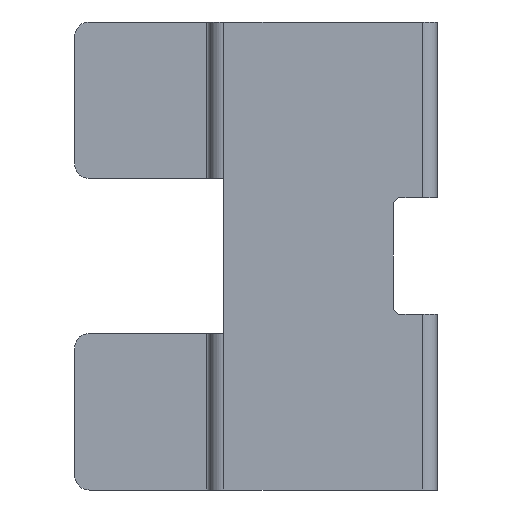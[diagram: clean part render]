
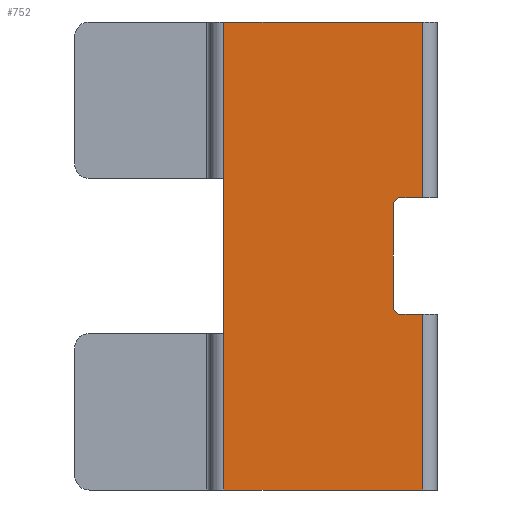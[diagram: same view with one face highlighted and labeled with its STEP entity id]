
A CAD part, front view. The second image highlights one B-rep face of the part: STEP entity #752.
In plain terms, the highlighted planar face has unit normal (0, -1, 0).
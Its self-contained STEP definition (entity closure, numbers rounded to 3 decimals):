
#18 = DIRECTION ( 'NONE',  ( -1., 0., 0. ) ) ;
#60 = VERTEX_POINT ( 'NONE', #2025 ) ;
#143 = ORIENTED_EDGE ( 'NONE', *, *, #1258, .F. ) ;
#152 = LINE ( 'NONE', #1615, #277 ) ;
#162 = DIRECTION ( 'NONE',  ( 0., 0., -1. ) ) ;
#189 = DIRECTION ( 'NONE',  ( 0., 1., 0. ) ) ;
#214 = ORIENTED_EDGE ( 'NONE', *, *, #1539, .F. ) ;
#239 = DIRECTION ( 'NONE',  ( 0., 0., -1. ) ) ;
#277 = VECTOR ( 'NONE', #1775, 1000. ) ;
#295 = CARTESIAN_POINT ( 'NONE',  ( 35., -4., 80. ) ) ;
#304 = CARTESIAN_POINT ( 'NONE',  ( -34., -4., -80. ) ) ;
#307 = CARTESIAN_POINT ( 'NONE',  ( -34., -4., 26.5 ) ) ;
#324 = ORIENTED_EDGE ( 'NONE', *, *, #1729, .T. ) ;
#350 = CARTESIAN_POINT ( 'NONE',  ( 26.5, -4., 17.5 ) ) ;
#362 = EDGE_CURVE ( 'NONE', #1361, #1491, #1307, .T. ) ;
#429 = ORIENTED_EDGE ( 'NONE', *, *, #1893, .F. ) ;
#442 = PLANE ( 'NONE',  #1225 ) ;
#444 = CARTESIAN_POINT ( 'NONE',  ( -34., -4., -26.5 ) ) ;
#498 = CARTESIAN_POINT ( 'NONE',  ( 34., -4., 80. ) ) ;
#506 = CARTESIAN_POINT ( 'NONE',  ( 26.5, -4., -20. ) ) ;
#520 = DIRECTION ( 'NONE',  ( 1., 0., 0. ) ) ;
#521 = VECTOR ( 'NONE', #1620, 1000. ) ;
#541 = LINE ( 'NONE', #1545, #1756 ) ;
#564 = CARTESIAN_POINT ( 'NONE',  ( -34., -4., 80. ) ) ;
#570 = DIRECTION ( 'NONE',  ( 0., 0., -1. ) ) ;
#583 = DIRECTION ( 'NONE',  ( 1., 0., 0. ) ) ;
#615 = LINE ( 'NONE', #444, #1397 ) ;
#620 = CIRCLE ( 'NONE', #1061, 2.5 ) ;
#624 = DIRECTION ( 'NONE',  ( 0., 0., -1. ) ) ;
#625 = EDGE_CURVE ( 'NONE', #1506, #911, #541, .T. ) ;
#673 = CARTESIAN_POINT ( 'NONE',  ( -34., -4., -26.5 ) ) ;
#752 = ADVANCED_FACE ( 'NONE', ( #999 ), #442, .T. ) ;
#833 = EDGE_CURVE ( 'NONE', #919, #1658, #1703, .T. ) ;
#883 = VERTEX_POINT ( 'NONE', #506 ) ;
#911 = VERTEX_POINT ( 'NONE', #1290 ) ;
#919 = VERTEX_POINT ( 'NONE', #1534 ) ;
#962 = DIRECTION ( 'NONE',  ( 0., -1., 0. ) ) ;
#967 = EDGE_CURVE ( 'NONE', #1412, #60, #1228, .T. ) ;
#972 = VECTOR ( 'NONE', #520, 1000. ) ;
#975 = VECTOR ( 'NONE', #1309, 1000. ) ;
#995 = LINE ( 'NONE', #498, #1351 ) ;
#999 = FACE_OUTER_BOUND ( 'NONE', #1270, .T. ) ;
#1006 = ORIENTED_EDGE ( 'NONE', *, *, #833, .F. ) ;
#1007 = CARTESIAN_POINT ( 'NONE',  ( 35., -4., 80. ) ) ;
#1008 = CARTESIAN_POINT ( 'NONE',  ( 24., -4., 17.5 ) ) ;
#1044 = EDGE_CURVE ( 'NONE', #883, #60, #620, .T. ) ;
#1052 = VERTEX_POINT ( 'NONE', #307 ) ;
#1054 = CARTESIAN_POINT ( 'NONE',  ( 26.5, -4., 20. ) ) ;
#1061 = AXIS2_PLACEMENT_3D ( 'NONE', #1116, #1446, #1541 ) ;
#1081 = ORIENTED_EDGE ( 'NONE', *, *, #967, .F. ) ;
#1086 = ORIENTED_EDGE ( 'NONE', *, *, #1787, .F. ) ;
#1116 = CARTESIAN_POINT ( 'NONE',  ( 26.5, -4., -17.5 ) ) ;
#1133 = AXIS2_PLACEMENT_3D ( 'NONE', #350, #189, #1484 ) ;
#1202 = CARTESIAN_POINT ( 'NONE',  ( 24., -4., 20. ) ) ;
#1225 = AXIS2_PLACEMENT_3D ( 'NONE', #295, #962, #624 ) ;
#1228 = LINE ( 'NONE', #1202, #1755 ) ;
#1239 = DIRECTION ( 'NONE',  ( 0., 0., 1. ) ) ;
#1244 = LINE ( 'NONE', #564, #1325 ) ;
#1258 = EDGE_CURVE ( 'NONE', #1361, #911, #1650, .T. ) ;
#1270 = EDGE_LOOP ( 'NONE', ( #429, #1667, #1081, #1635, #1286, #143, #1992, #324, #214, #1561, #1006, #1086 ) ) ;
#1286 = ORIENTED_EDGE ( 'NONE', *, *, #625, .T. ) ;
#1290 = CARTESIAN_POINT ( 'NONE',  ( 34., -4., 20. ) ) ;
#1298 = LINE ( 'NONE', #1482, #972 ) ;
#1307 = LINE ( 'NONE', #1007, #1609 ) ;
#1309 = DIRECTION ( 'NONE',  ( 0., 0., -1. ) ) ;
#1325 = VECTOR ( 'NONE', #239, 1000. ) ;
#1331 = EDGE_CURVE ( 'NONE', #1412, #1506, #1904, .T. ) ;
#1344 = CARTESIAN_POINT ( 'NONE',  ( 34., -4., 80. ) ) ;
#1351 = VECTOR ( 'NONE', #162, 1000. ) ;
#1361 = VERTEX_POINT ( 'NONE', #1344 ) ;
#1384 = VERTEX_POINT ( 'NONE', #673 ) ;
#1397 = VECTOR ( 'NONE', #1239, 1000. ) ;
#1412 = VERTEX_POINT ( 'NONE', #1008 ) ;
#1414 = VERTEX_POINT ( 'NONE', #1512 ) ;
#1446 = DIRECTION ( 'NONE',  ( 0., 1., 0. ) ) ;
#1469 = CARTESIAN_POINT ( 'NONE',  ( 35., -4., -80. ) ) ;
#1482 = CARTESIAN_POINT ( 'NONE',  ( 24., -4., -20. ) ) ;
#1484 = DIRECTION ( 'NONE',  ( 0., 0., -1. ) ) ;
#1491 = VERTEX_POINT ( 'NONE', #2009 ) ;
#1506 = VERTEX_POINT ( 'NONE', #1054 ) ;
#1512 = CARTESIAN_POINT ( 'NONE',  ( 34., -4., -20. ) ) ;
#1534 = CARTESIAN_POINT ( 'NONE',  ( 34., -4., -80. ) ) ;
#1539 = EDGE_CURVE ( 'NONE', #1384, #1052, #615, .T. ) ;
#1541 = DIRECTION ( 'NONE',  ( 0., 0., -1. ) ) ;
#1545 = CARTESIAN_POINT ( 'NONE',  ( 24., -4., 20. ) ) ;
#1561 = ORIENTED_EDGE ( 'NONE', *, *, #2032, .T. ) ;
#1609 = VECTOR ( 'NONE', #18, 1000. ) ;
#1615 = CARTESIAN_POINT ( 'NONE',  ( -34., -4., 80. ) ) ;
#1620 = DIRECTION ( 'NONE',  ( -1., 0., 0. ) ) ;
#1635 = ORIENTED_EDGE ( 'NONE', *, *, #1331, .T. ) ;
#1650 = LINE ( 'NONE', #1941, #975 ) ;
#1658 = VERTEX_POINT ( 'NONE', #304 ) ;
#1667 = ORIENTED_EDGE ( 'NONE', *, *, #1044, .T. ) ;
#1703 = LINE ( 'NONE', #1469, #521 ) ;
#1729 = EDGE_CURVE ( 'NONE', #1491, #1052, #152, .T. ) ;
#1755 = VECTOR ( 'NONE', #570, 1000. ) ;
#1756 = VECTOR ( 'NONE', #583, 1000. ) ;
#1775 = DIRECTION ( 'NONE',  ( 0., 0., -1. ) ) ;
#1787 = EDGE_CURVE ( 'NONE', #1414, #919, #995, .T. ) ;
#1893 = EDGE_CURVE ( 'NONE', #883, #1414, #1298, .T. ) ;
#1904 = CIRCLE ( 'NONE', #1133, 2.5 ) ;
#1941 = CARTESIAN_POINT ( 'NONE',  ( 34., -4., 80. ) ) ;
#1992 = ORIENTED_EDGE ( 'NONE', *, *, #362, .T. ) ;
#2009 = CARTESIAN_POINT ( 'NONE',  ( -34., -4., 80. ) ) ;
#2025 = CARTESIAN_POINT ( 'NONE',  ( 24., -4., -17.5 ) ) ;
#2032 = EDGE_CURVE ( 'NONE', #1384, #1658, #1244, .T. ) ;
